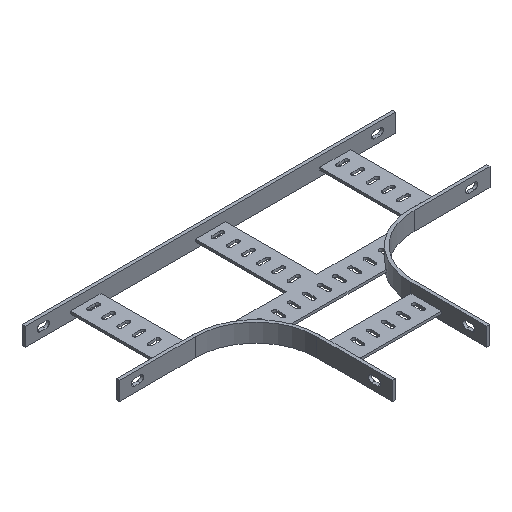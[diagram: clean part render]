
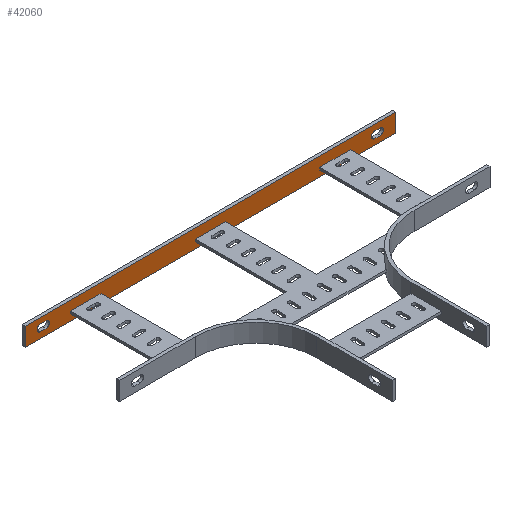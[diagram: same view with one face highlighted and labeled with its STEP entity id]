
A CAD part, isometric view. The second image highlights one B-rep face of the part: STEP entity #42060.
In plain terms, the highlighted planar face has unit normal (0, -1, 0).
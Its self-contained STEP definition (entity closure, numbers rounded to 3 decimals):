
#21860=CARTESIAN_POINT('',(-410.,255.,-14.));
#21870=VERTEX_POINT('',#21860);
#21950=CARTESIAN_POINT('',(-360.,255.,-14.));
#21960=VERTEX_POINT('',#21950);
#21990=CARTESIAN_POINT('',(0.,255.,-14.));
#22000=DIRECTION('',(1.,0.,0.));
#22010=VECTOR('',#22000,1.);
#22020=LINE('',#21990,#22010);
#22030=EDGE_CURVE('',#21870,#21960,#22020,.T.);
#24350=CARTESIAN_POINT('',(-360.,255.,-10.));
#24360=VERTEX_POINT('',#24350);
#24390=CARTESIAN_POINT('',(-360.,255.,0.));
#24400=DIRECTION('',(0.,0.,1.));
#24410=VECTOR('',#24400,1.);
#24420=LINE('',#24390,#24410);
#24430=EDGE_CURVE('',#21960,#24360,#24420,.T.);
#24590=CARTESIAN_POINT('',(-410.,255.,-10.));
#24600=VERTEX_POINT('',#24590);
#24630=CARTESIAN_POINT('',(0.,255.,-10.));
#24640=DIRECTION('',(-1.,0.,0.));
#24650=VECTOR('',#24640,1.);
#24660=LINE('',#24630,#24650);
#24670=EDGE_CURVE('',#24360,#24600,#24660,.T.);
#26960=CARTESIAN_POINT('',(-410.,255.,0.));
#26970=DIRECTION('',(0.,0.,-1.));
#26980=VECTOR('',#26970,1.);
#26990=LINE('',#26960,#26980);
#27000=EDGE_CURVE('',#24600,#21870,#26990,.T.);
#31640=CARTESIAN_POINT('',(0.,255.,-14.));
#31650=VERTEX_POINT('',#31640);
#31730=CARTESIAN_POINT('',(50.,255.,-14.));
#31740=VERTEX_POINT('',#31730);
#31770=CARTESIAN_POINT('',(0.,255.,-14.));
#31780=DIRECTION('',(1.,0.,0.));
#31790=VECTOR('',#31780,1.);
#31800=LINE('',#31770,#31790);
#31810=EDGE_CURVE('',#31650,#31740,#31800,.T.);
#34030=CARTESIAN_POINT('',(50.,255.,-10.));
#34040=VERTEX_POINT('',#34030);
#34070=CARTESIAN_POINT('',(50.,255.,0.));
#34080=DIRECTION('',(0.,0.,1.));
#34090=VECTOR('',#34080,1.);
#34100=LINE('',#34070,#34090);
#34110=EDGE_CURVE('',#31740,#34040,#34100,.T.);
#34270=CARTESIAN_POINT('',(0.,255.,-10.));
#34280=VERTEX_POINT('',#34270);
#34310=CARTESIAN_POINT('',(0.,255.,-10.));
#34320=DIRECTION('',(-1.,0.,0.));
#34330=VECTOR('',#34320,1.);
#34340=LINE('',#34310,#34330);
#34350=EDGE_CURVE('',#34040,#34280,#34340,.T.);
#36540=CARTESIAN_POINT('',(0.,255.,0.));
#36550=DIRECTION('',(0.,0.,-1.));
#36560=VECTOR('',#36550,1.);
#36570=LINE('',#36540,#36560);
#36580=EDGE_CURVE('',#34280,#31650,#36570,.T.);
#40490=CARTESIAN_POINT('',(-435.,255.,-30.));
#40500=DIRECTION('',(0.,1.,-0.));
#40510=DIRECTION('',(-1.,0.,0.));
#40520=AXIS2_PLACEMENT_3D('',#40490,#40500,#40510);
#40530=PLANE('',#40520);
#40540=CARTESIAN_POINT('',(90.5,255.,-15.));
#40550=DIRECTION('',(0.,-1.,0.));
#40560=DIRECTION('',(1.,0.,0.));
#40570=AXIS2_PLACEMENT_3D('',#40540,#40550,#40560);
#40580=CIRCLE('',#40570,5.5);
#40590=CARTESIAN_POINT('',(90.5,255.,-9.5));
#40600=VERTEX_POINT('',#40590);
#40610=CARTESIAN_POINT('',(90.5,255.,-20.5));
#40620=VERTEX_POINT('',#40610);
#40630=EDGE_CURVE('',#40600,#40620,#40580,.T.);
#40640=ORIENTED_EDGE('',*,*,#40630,.F.);
#40650=CARTESIAN_POINT('',(0.,255.,-20.5));
#40660=DIRECTION('',(-1.,0.,0.));
#40670=VECTOR('',#40660,1.);
#40680=LINE('',#40650,#40670);
#40690=CARTESIAN_POINT('',(99.5,255.,-20.5));
#40700=VERTEX_POINT('',#40690);
#40710=EDGE_CURVE('',#40700,#40620,#40680,.T.);
#40720=ORIENTED_EDGE('',*,*,#40710,.T.);
#40730=CARTESIAN_POINT('',(99.5,255.,-15.));
#40740=DIRECTION('',(0.,1.,0.));
#40750=DIRECTION('',(1.,0.,0.));
#40760=AXIS2_PLACEMENT_3D('',#40730,#40740,#40750);
#40770=CIRCLE('',#40760,5.5);
#40780=CARTESIAN_POINT('',(99.5,255.,-9.5));
#40790=VERTEX_POINT('',#40780);
#40800=EDGE_CURVE('',#40790,#40700,#40770,.T.);
#40810=ORIENTED_EDGE('',*,*,#40800,.T.);
#40820=CARTESIAN_POINT('',(0.,255.,-9.5));
#40830=DIRECTION('',(1.,0.,0.));
#40840=VECTOR('',#40830,1.);
#40850=LINE('',#40820,#40840);
#40860=EDGE_CURVE('',#40600,#40790,#40850,.T.);
#40870=ORIENTED_EDGE('',*,*,#40860,.T.);
#40880=EDGE_LOOP('',(#40870,#40810,#40720,#40640));
#40890=FACE_BOUND('',#40880,.T.);
#40900=CARTESIAN_POINT('',(-50.,255.,-9.5));
#40910=DIRECTION('',(1.,0.,0.));
#40920=VECTOR('',#40910,1.);
#40930=LINE('',#40900,#40920);
#40940=CARTESIAN_POINT('',(-459.5,255.,-9.5));
#40950=VERTEX_POINT('',#40940);
#40960=CARTESIAN_POINT('',(-450.5,255.,-9.5));
#40970=VERTEX_POINT('',#40960);
#40980=EDGE_CURVE('',#40950,#40970,#40930,.T.);
#40990=ORIENTED_EDGE('',*,*,#40980,.T.);
#41000=CARTESIAN_POINT('',(-459.5,255.,-15.));
#41010=DIRECTION('',(0.,1.,0.));
#41020=DIRECTION('',(-1.,0.,0.));
#41030=AXIS2_PLACEMENT_3D('',#41000,#41010,#41020);
#41040=CIRCLE('',#41030,5.5);
#41050=CARTESIAN_POINT('',(-459.5,255.,-20.5));
#41060=VERTEX_POINT('',#41050);
#41070=EDGE_CURVE('',#41060,#40950,#41040,.T.);
#41080=ORIENTED_EDGE('',*,*,#41070,.T.);
#41090=CARTESIAN_POINT('',(-50.,255.,-20.5));
#41100=DIRECTION('',(-1.,0.,0.));
#41110=VECTOR('',#41100,1.);
#41120=LINE('',#41090,#41110);
#41130=CARTESIAN_POINT('',(-450.5,255.,-20.5));
#41140=VERTEX_POINT('',#41130);
#41150=EDGE_CURVE('',#41140,#41060,#41120,.T.);
#41160=ORIENTED_EDGE('',*,*,#41150,.T.);
#41170=CARTESIAN_POINT('',(-450.5,255.,-15.));
#41180=DIRECTION('',(0.,-1.,0.));
#41190=DIRECTION('',(-1.,0.,0.));
#41200=AXIS2_PLACEMENT_3D('',#41170,#41180,#41190);
#41210=CIRCLE('',#41200,5.5);
#41220=EDGE_CURVE('',#41140,#40970,#41210,.T.);
#41230=ORIENTED_EDGE('',*,*,#41220,.F.);
#41240=EDGE_LOOP('',(#41230,#41160,#41080,#40990));
#41250=FACE_BOUND('',#41240,.T.);
#41260=CARTESIAN_POINT('',(-435.,255.,-30.));
#41270=DIRECTION('',(1.,0.,0.));
#41280=VECTOR('',#41270,1.);
#41290=LINE('',#41260,#41280);
#41300=CARTESIAN_POINT('',(-485.,255.,-30.));
#41310=VERTEX_POINT('',#41300);
#41320=CARTESIAN_POINT('',(125.,255.,-30.));
#41330=VERTEX_POINT('',#41320);
#41340=EDGE_CURVE('',#41310,#41330,#41290,.T.);
#41350=ORIENTED_EDGE('',*,*,#41340,.T.);
#41360=CARTESIAN_POINT('',(-485.,255.,-30.));
#41370=DIRECTION('',(0.,0.,1.));
#41380=VECTOR('',#41370,1.);
#41390=LINE('',#41360,#41380);
#41400=CARTESIAN_POINT('',(-485.,255.,0.));
#41410=VERTEX_POINT('',#41400);
#41420=EDGE_CURVE('',#41310,#41410,#41390,.T.);
#41430=ORIENTED_EDGE('',*,*,#41420,.F.);
#41440=CARTESIAN_POINT('',(-435.,255.,0.));
#41450=DIRECTION('',(1.,0.,0.));
#41460=VECTOR('',#41450,1.);
#41470=LINE('',#41440,#41460);
#41480=CARTESIAN_POINT('',(125.,255.,0.));
#41490=VERTEX_POINT('',#41480);
#41500=EDGE_CURVE('',#41410,#41490,#41470,.T.);
#41510=ORIENTED_EDGE('',*,*,#41500,.F.);
#41520=CARTESIAN_POINT('',(125.,255.,-30.));
#41530=DIRECTION('',(0.,0.,1.));
#41540=VECTOR('',#41530,1.);
#41550=LINE('',#41520,#41540);
#41560=EDGE_CURVE('',#41330,#41490,#41550,.T.);
#41570=ORIENTED_EDGE('',*,*,#41560,.T.);
#41580=EDGE_LOOP('',(#41570,#41510,#41430,#41350));
#41590=FACE_OUTER_BOUND('',#41580,.T.);
#41600=ORIENTED_EDGE('',*,*,#36580,.F.);
#41610=ORIENTED_EDGE('',*,*,#31810,.F.);
#41620=ORIENTED_EDGE('',*,*,#34110,.F.);
#41630=ORIENTED_EDGE('',*,*,#34350,.F.);
#41640=EDGE_LOOP('',(#41630,#41620,#41610,#41600));
#41650=FACE_BOUND('',#41640,.T.);
#41660=ORIENTED_EDGE('',*,*,#24670,.F.);
#41670=ORIENTED_EDGE('',*,*,#27000,.F.);
#41680=ORIENTED_EDGE('',*,*,#22030,.F.);
#41690=ORIENTED_EDGE('',*,*,#24430,.F.);
#41700=EDGE_LOOP('',(#41690,#41680,#41670,#41660));
#41710=FACE_BOUND('',#41700,.T.);
#41720=CARTESIAN_POINT('',(0.,255.,-14.));
#41730=DIRECTION('',(1.,0.,0.));
#41740=VECTOR('',#41730,1.);
#41750=LINE('',#41720,#41740);
#41760=CARTESIAN_POINT('',(-205.,255.,-14.));
#41770=VERTEX_POINT('',#41760);
#41780=CARTESIAN_POINT('',(-155.,255.,-14.));
#41790=VERTEX_POINT('',#41780);
#41800=EDGE_CURVE('',#41770,#41790,#41750,.T.);
#41810=ORIENTED_EDGE('',*,*,#41800,.F.);
#41820=CARTESIAN_POINT('',(-155.,255.,0.));
#41830=DIRECTION('',(0.,0.,1.));
#41840=VECTOR('',#41830,1.);
#41850=LINE('',#41820,#41840);
#41860=CARTESIAN_POINT('',(-155.,255.,-10.));
#41870=VERTEX_POINT('',#41860);
#41880=EDGE_CURVE('',#41790,#41870,#41850,.T.);
#41890=ORIENTED_EDGE('',*,*,#41880,.F.);
#41900=CARTESIAN_POINT('',(0.,255.,-10.));
#41910=DIRECTION('',(-1.,0.,0.));
#41920=VECTOR('',#41910,1.);
#41930=LINE('',#41900,#41920);
#41940=CARTESIAN_POINT('',(-205.,255.,-10.));
#41950=VERTEX_POINT('',#41940);
#41960=EDGE_CURVE('',#41870,#41950,#41930,.T.);
#41970=ORIENTED_EDGE('',*,*,#41960,.F.);
#41980=CARTESIAN_POINT('',(-205.,255.,0.));
#41990=DIRECTION('',(0.,0.,-1.));
#42000=VECTOR('',#41990,1.);
#42010=LINE('',#41980,#42000);
#42020=EDGE_CURVE('',#41950,#41770,#42010,.T.);
#42030=ORIENTED_EDGE('',*,*,#42020,.F.);
#42040=EDGE_LOOP('',(#42030,#41970,#41890,#41810));
#42050=FACE_BOUND('',#42040,.T.);
#42060=ADVANCED_FACE('',(#40890,#41250,#41590,#41650,#41710,#42050),
#40530,.F.);
